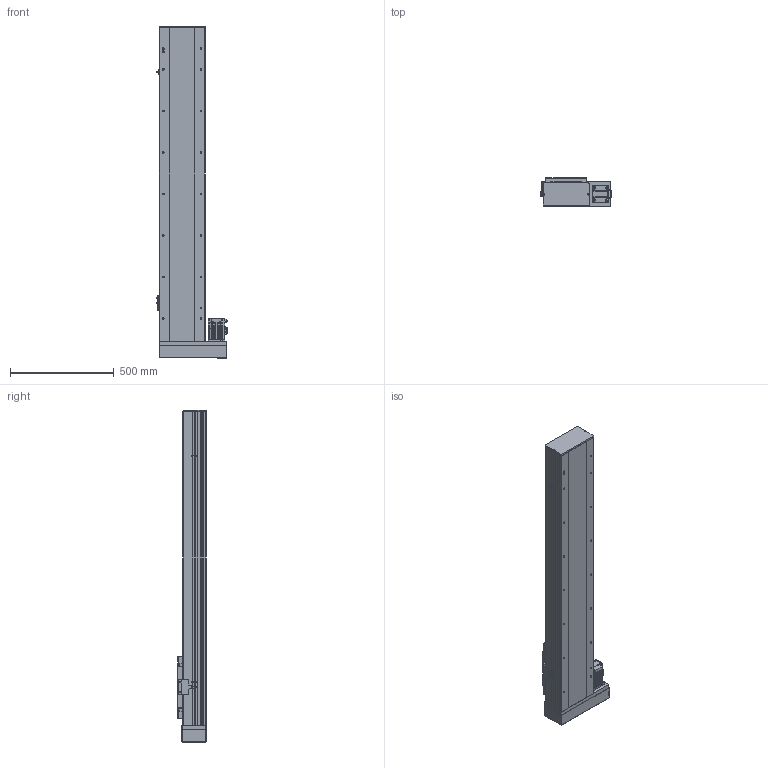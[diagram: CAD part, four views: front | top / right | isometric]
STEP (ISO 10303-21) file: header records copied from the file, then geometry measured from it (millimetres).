
FILE_DESCRIPTION (( 'STEP AP214' ), '1' );
FILE_NAME ('TPF22-1100-BR-P75.STEP', '2023-03-29T06:16:04', ( '' ), ( '' ), 'SwSTEP 2.0', 'SolidWorks 2020', '' );
FILE_SCHEMA (( 'AUTOMOTIVE_DESIGN' ));
Length unit declared in the file: millimetre
Products named in the file (8): 葩璃 TPE22 賑雄殤^TPF22-BR-P75; 葩璃 pm-t65-672^TPF22-BR-P75; 葩璃 MSMD08PC_P75^TPF22-BR-P75; 葩璃 詩湍150^TPF22-BR-P75; TPF22-1100-BR-P75; 葩璃 TPF22-BC-001 菁釱MZ-220-01^TPF22-BR-P75; 葩璃 TPF22-BL R-009 萇儂啣^TPF22-BR-P75_耳32-750W; 葩璃 TPF22-BC-002 耜裔ZTMZ-220-04^TPF22-BR-P75
Assembly tree (10 placements, depth 2):
  TPF22-1100-BR-P75
    葩璃 TPF22-BC-001 菁釱MZ-220-01^TPF22-BR-P75
    葩璃 TPF22-BC-002 耜裔ZTMZ-220-04^TPF22-BR-P75  x2
    葩璃 TPE22 賑雄殤^TPF22-BR-P75
    葩璃 詩湍150^TPF22-BR-P75
    葩璃 TPF22-BL R-009 萇儂啣^TPF22-BR-P75_耳32-750W
    葩璃 pm-t65-672^TPF22-BR-P75  x3
    葩璃 MSMD08PC_P75^TPF22-BR-P75
Bounding box: 341.7 x 138 x 1599 mm (x, y, z)
Volume: 18740143.1 mm3; surface area: 2751161.4 mm2
Topology: 16 solids, 16 shells, 1552 faces, 4094 edges, 2621 vertices
Faces by surface type: plane 977, cylinder 483, cone 62, bspline 30
Entity records: 42859 total; most frequent: CARTESIAN_POINT 9055, ORIENTED_EDGE 6708, DIRECTION 6697, EDGE_CURVE 3354, VECTOR 2369, LINE 2369, VERTEX_POINT 2165, AXIS2_PLACEMENT_3D 2164
